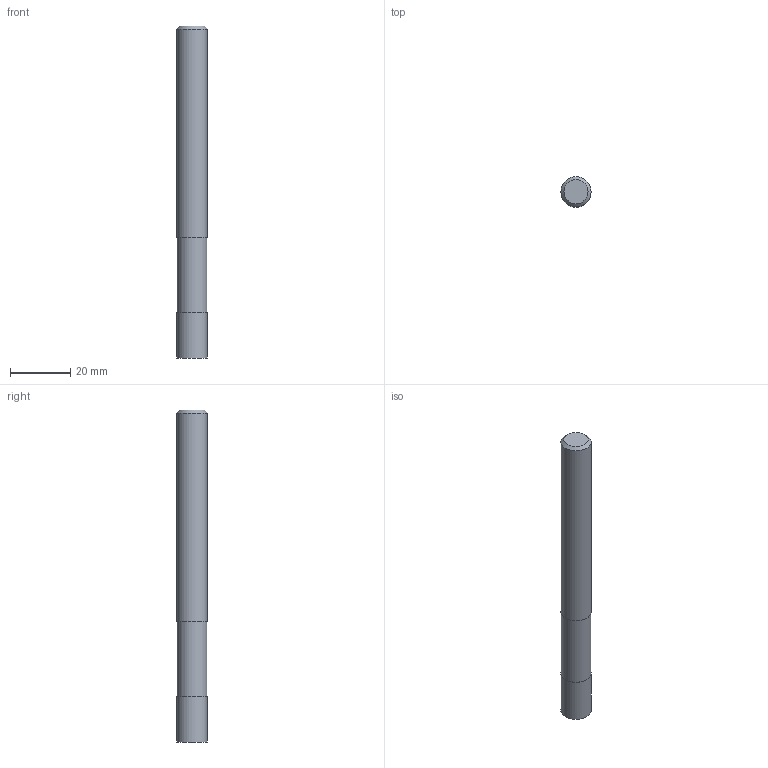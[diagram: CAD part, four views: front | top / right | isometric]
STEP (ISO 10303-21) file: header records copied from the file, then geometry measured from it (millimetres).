
FILE_DESCRIPTION((''),'2;1');
FILE_NAME('C:\Users\nsx150\AppData\Local\Temp\Mastercam 2021\17T8Q8S9EB\TEMP.step','2021-04-21T16:16:46',(''),(''),'STEP Write','Mastercam 2021 ... CNC Software, Inc.','');
FILE_SCHEMA(('AUTOMOTIVE_DESIGN'));
Length unit declared in the file: millimetre
Products named in the file (1): None
Bounding box: 10 x 10 x 110 mm (x, y, z)
Volume: 8547 mm3; surface area: 3734.5 mm2
Topology: 2 solids, 2 shells, 9 faces, 11 edges, 7 vertices
Faces by surface type: plane 5, cylinder 3, cone 1
Full cylindrical faces by diameter (mm): 9.8 x1, 10 x2
Entity records: 211 total; most frequent: DIRECTION 36, CARTESIAN_POINT 25, AXIS2_PLACEMENT_3D 18, ORIENTED_EDGE 14, EDGE_LOOP 14, STYLED_ITEM 12, ADVANCED_FACE 9, FACE_BOUND 8
